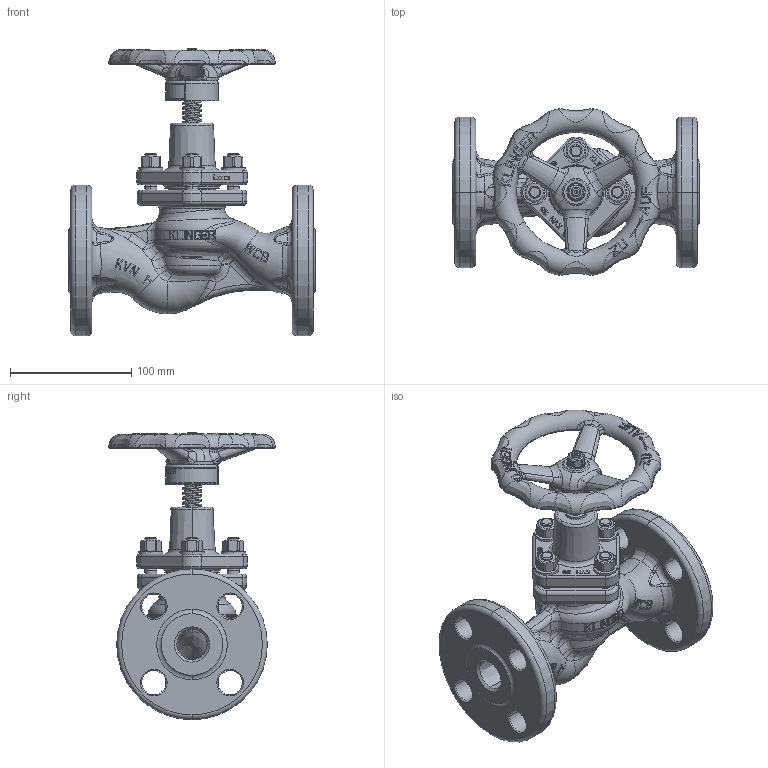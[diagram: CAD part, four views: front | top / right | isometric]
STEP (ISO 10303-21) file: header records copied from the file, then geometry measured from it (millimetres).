
FILE_DESCRIPTION((''),'2;1');
FILE_NAME('KVNFL-1-S-----C300PGG_SW0001','2026-09-28T13:43:09',('jeitlers'),('KLINGER'),'CREO PARAMETRIC BY PTC INC, 2025443','CREO PARAMETRIC BY PTC INC, 2025443','');
FILE_SCHEMA(('CONFIG_CONTROL_DESIGN'));
Products named in the file (1): KVNFL-1-S-----C300PGG_SW0001
Bounding box: 203 x 137.21 x 236.8 mm (x, y, z)
Volume: 903759 mm3; surface area: 204663.7 mm2
Topology: 3 solids, 10 shells, 2956 faces, 7830 edges, 4930 vertices
Faces by surface type: plane 1540, bspline 646, cylinder 390, torus 261, cone 105, sphere 14
Entity records: 184611 total; most frequent: CARTESIAN_POINT 118056, ORIENTED_EDGE 15652, DIRECTION 11288, EDGE_CURVE 7826, VERTEX_POINT 4930, AXIS2_PLACEMENT_3D 4006, VECTOR 3276, LINE 3276
